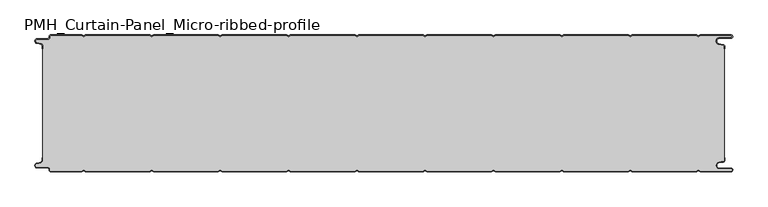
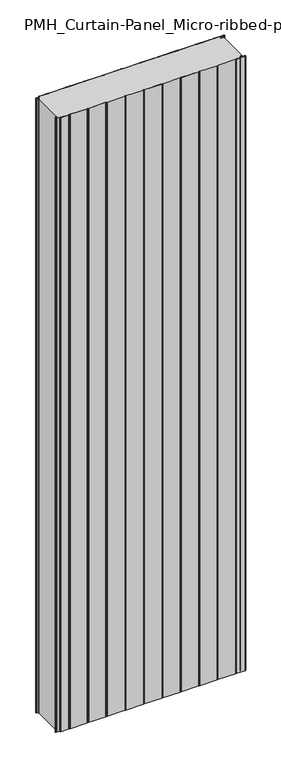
"""IFC4 building model written with IfcOpenShell, lengths in millimetres: plate geometry, PMH_Curtain-Panel_Micro-ribbed-profile : ACH_PMH_Stone-wool-Panel_200M."""

from ifc_helpers import new_model, si_unit, point, frame_2d, origin, origin_with_axes, place, context, project, spatial, polyline, circle_curve, trimmed, segment, composite_curve, outline, extrude, source, transform, mapped, element, save


def pmh_curtain_panel_micro_ribbed_profile_f908c7d4(model_context):
    return source(origin(), model_context, "Body", "SweptSolid", [
        extrude(outline(composite_curve([segment(trimmed(circle_curve(frame_2d((-502.0, -15.878557)), 2.0), [point((-500.0, -15.878557))], [point((-501.5500978, -13.9298169))], True, "CARTESIAN"), True, "CONTINUOUS"), segment(polyline([(-501.5500978, -13.9298169), (-507.7098239, -12.507732)]), True, "CONTINUOUS"), segment(trimmed(circle_curve(frame_2d((-506.9, -9.0)), 3.6), [point((-507.7098239, -12.507732))], [point((-506.9, -5.4))], False, "CARTESIAN"), True, "CONTINUOUS"), segment(polyline([(-506.9, -5.4), (-491.4, -5.4)]), True, "CONTINUOUS"), segment(trimmed(circle_curve(frame_2d((-491.4, -3.4)), 2.0), [point((-491.4, -5.4))], [point((-489.4, -3.4))], True, "CARTESIAN"), True, "CONTINUOUS"), segment(polyline([(-489.4, -3.4), (-489.4, -2.0)]), True, "CONTINUOUS"), segment(trimmed(circle_curve(frame_2d((-487.4, -2.0)), 2.0), [point((-489.4, -2.0))], [point((-487.4, 0.0))], False, "CARTESIAN"), True, "CONTINUOUS"), segment(polyline([(-487.4, 0.0), (-442.0999995, 0.0), (-439.4, -1.5588455), (-436.7000005, 0.0), (-342.0999995, 0.0), (-339.4, -1.5588455), (-336.7000005, 0.0), (-242.0999995, 0.0), (-239.4, -1.5588455), (-236.7000005, 0.0), (-142.0999995, 0.0), (-139.4, -1.5588455), (-136.7000005, 0.0), (-42.0999995, 0.0), (-39.4, -1.5588455), (-36.7000005, 0.0), (57.9000005, 0.0), (60.6, -1.5588455), (63.2999995, 0.0), (157.9000005, 0.0), (160.6, -1.5588455), (163.2999995, 0.0), (257.9000005, 0.0), (260.6, -1.5588455), (263.2999995, 0.0), (357.9000005, 0.0), (360.6, -1.5588455), (363.2999995, 0.0), (457.9000005, 0.0), (460.6, -1.5588455), (463.2999995, 0.0), (508.1, 0.0)]), True, "CONTINUOUS"), segment(trimmed(circle_curve(frame_2d((508.1, -2.5)), 2.5), [point((508.1, 0.0))], [point((508.1, -5.0))], False, "CARTESIAN"), True, "CONTINUOUS"), segment(polyline([(508.1, -5.0), (491.1, -5.0)]), True, "CONTINUOUS"), segment(trimmed(circle_curve(frame_2d((491.1, -9.0)), 4.0), [point((491.1, -5.0))], [point((490.405407, -12.939231))], True, "CARTESIAN"), True, "CONTINUOUS"), segment(polyline([(490.405407, -12.939231), (496.8514855, -14.0758491)]), True, "CONTINUOUS"), segment(trimmed(circle_curve(frame_2d((496.4, -16.6363492)), 2.6), [point((496.8514855, -14.0758491))], [point((499.0, -16.6363492))], False, "CARTESIAN"), True, "CONTINUOUS"), segment(polyline([(499.0, -16.6363492), (499.0, -20.0), (498.2, -20.0), (498.2, -16.6363492)]), True, "CONTINUOUS"), segment(trimmed(circle_curve(frame_2d((496.4, -16.6363492)), 1.8), [point((498.2, -16.6363492))], [point((496.7125669, -14.8636953))], True, "CARTESIAN"), True, "CONTINUOUS"), segment(polyline([(496.7125669, -14.8636953), (490.2664884, -13.7270772)]), True, "CONTINUOUS"), segment(trimmed(circle_curve(frame_2d((491.1, -9.0)), 4.8), [point((490.2664884, -13.7270772))], [point((491.1, -4.2))], False, "CARTESIAN"), True, "CONTINUOUS"), segment(polyline([(491.1, -4.2), (508.1, -4.2)]), True, "CONTINUOUS"), segment(trimmed(circle_curve(frame_2d((508.1, -2.5)), 1.7), [point((508.1, -4.2))], [point((508.1, -0.8))], True, "CARTESIAN"), True, "CONTINUOUS"), segment(polyline([(508.1, -0.8), (463.5143588, -0.8), (460.6, -2.482606), (457.6856412, -0.8), (363.5143588, -0.8), (360.6, -2.482606), (357.6856412, -0.8), (263.5143588, -0.8), (260.6, -2.482606), (257.6856412, -0.8), (163.5143588, -0.8), (160.6, -2.482606), (157.6856412, -0.8), (63.5143588, -0.8), (60.6, -2.482606), (57.6856412, -0.8), (-36.4856412, -0.8), (-39.4, -2.482606), (-42.3143588, -0.8), (-136.4856412, -0.8), (-139.4, -2.482606), (-142.3143588, -0.8), (-236.4856412, -0.8), (-239.4, -2.482606), (-242.3143588, -0.8), (-336.4856412, -0.8), (-339.4, -2.482606), (-342.3143588, -0.8), (-436.4856412, -0.8), (-439.4, -2.482606), (-442.3143588, -0.8), (-487.4, -0.8)]), True, "CONTINUOUS"), segment(trimmed(circle_curve(frame_2d((-487.4, -2.0)), 1.2), [point((-487.4, -0.8))], [point((-488.6, -2.0))], True, "CARTESIAN"), True, "CONTINUOUS"), segment(polyline([(-488.6, -2.0), (-488.6, -3.4)]), True, "CONTINUOUS"), segment(trimmed(circle_curve(frame_2d((-491.4, -3.4)), 2.8), [point((-488.6, -3.4))], [point((-491.4, -6.2))], False, "CARTESIAN"), True, "CONTINUOUS"), segment(polyline([(-491.4, -6.2), (-506.9, -6.2)]), True, "CONTINUOUS"), segment(trimmed(circle_curve(frame_2d((-506.9, -9.0)), 2.8), [point((-506.9, -6.2))], [point((-507.529863, -11.7282362))], True, "CARTESIAN"), True, "CONTINUOUS"), segment(polyline([(-507.529863, -11.7282362), (-501.370137, -13.150321)]), True, "CONTINUOUS"), segment(trimmed(circle_curve(frame_2d((-502.0, -15.878557)), 2.8), [point((-501.370137, -13.150321))], [point((-499.2, -15.878557))], False, "CARTESIAN"), True, "CONTINUOUS"), segment(polyline([(-499.2, -15.878557), (-499.2, -20.0), (-500.0, -20.0), (-500.0, -15.878557)]), True, "CONTINUOUS")], self_intersect=False)), origin_with_axes(), (0.0, 0.0, 1.0), 3500.0),
        extrude(outline(composite_curve([segment(polyline([(-499.2, -184.1214426), (-499.2, -15.8785573)]), True, "CONTINUOUS"), segment(trimmed(circle_curve(frame_2d((-502.0, -15.8785573)), 2.8), [point((-499.2, -15.8785573))], [point((-501.370137, -13.1503212))], True, "CARTESIAN"), True, "CONTINUOUS"), segment(polyline([(-501.370137, -13.1503212), (-507.5298631, -11.7282362)]), True, "CONTINUOUS"), segment(trimmed(circle_curve(frame_2d((-506.9, -9.0)), 2.8), [point((-507.5298631, -11.7282362))], [point((-506.9, -6.2))], False, "CARTESIAN"), True, "CONTINUOUS"), segment(polyline([(-506.9, -6.2), (-491.4000001, -6.2)]), True, "CONTINUOUS"), segment(trimmed(circle_curve(frame_2d((-491.4000001, -3.4)), 2.8), [point((-491.4000001, -6.2))], [point((-488.6000001, -3.4))], True, "CARTESIAN"), True, "CONTINUOUS"), segment(polyline([(-488.6000001, -3.4), (-488.6000001, -2.0)]), True, "CONTINUOUS"), segment(trimmed(circle_curve(frame_2d((-487.4000001, -2.0)), 1.2), [point((-488.6000001, -2.0))], [point((-487.4000001, -0.8))], False, "CARTESIAN"), True, "CONTINUOUS"), segment(polyline([(-487.4000001, -0.8), (-442.3143589, -0.8), (-439.4000001, -2.482606), (-436.4856412, -0.8), (-342.3143589, -0.8), (-339.4000001, -2.482606), (-336.4856412, -0.8), (-242.3143589, -0.8), (-239.4000001, -2.482606), (-236.4856412, -0.8), (-142.3143589, -0.8), (-139.4000001, -2.482606), (-136.4856412, -0.8), (-42.3143589, -0.8), (-39.4000001, -2.482606), (-36.4856412, -0.8), (57.6856411, -0.8), (60.5999999, -2.482606), (63.5143588, -0.8), (157.6856411, -0.8), (160.5999999, -2.482606), (163.5143588, -0.8), (257.6856411, -0.8), (260.5999999, -2.482606), (263.5143588, -0.8), (357.6856411, -0.8), (360.5999999, -2.482606), (363.5143588, -0.8), (457.6856411, -0.8), (460.5999999, -2.482606), (463.5143588, -0.8), (508.0999999, -0.8)]), True, "CONTINUOUS"), segment(trimmed(circle_curve(frame_2d((508.0999999, -2.5)), 1.7), [point((508.0999999, -0.8))], [point((508.0999999, -4.2))], False, "CARTESIAN"), True, "CONTINUOUS"), segment(polyline([(508.0999999, -4.2), (491.0999999, -4.2)]), True, "CONTINUOUS"), segment(trimmed(circle_curve(frame_2d((491.0999999, -9.0)), 4.8), [point((491.0999999, -4.2))], [point((490.2664883, -13.7270771))], True, "CARTESIAN"), True, "CONTINUOUS"), segment(polyline([(490.2664883, -13.7270771), (496.7125668, -14.8636953)]), True, "CONTINUOUS"), segment(trimmed(circle_curve(frame_2d((496.3999999, -16.6363492)), 1.8), [point((496.7125668, -14.8636953))], [point((498.1999999, -16.6363492))], False, "CARTESIAN"), True, "CONTINUOUS"), segment(polyline([(498.1999999, -16.6363492), (498.1999999, -183.3636508)]), True, "CONTINUOUS"), segment(trimmed(circle_curve(frame_2d((496.3999999, -183.3636508)), 1.8), [point((498.1999999, -183.3636508))], [point((496.7125668, -185.1363047))], False, "CARTESIAN"), True, "CONTINUOUS"), segment(polyline([(496.7125668, -185.1363047), (490.2664883, -186.2729229)]), True, "CONTINUOUS"), segment(trimmed(circle_curve(frame_2d((491.0999999, -191.0)), 4.8), [point((490.2664883, -186.2729229))], [point((491.0999999, -195.8))], True, "CARTESIAN"), True, "CONTINUOUS"), segment(polyline([(491.0999999, -195.8), (508.0999999, -195.8)]), True, "CONTINUOUS"), segment(trimmed(circle_curve(frame_2d((508.0999999, -197.5)), 1.7), [point((508.0999999, -195.8))], [point((508.0999999, -199.2))], False, "CARTESIAN"), True, "CONTINUOUS"), segment(polyline([(508.0999999, -199.2), (463.5143588, -199.2), (460.5999999, -197.517394), (457.6856411, -199.2), (363.5143588, -199.2), (360.5999999, -197.517394), (357.6856411, -199.2), (263.5143588, -199.2), (260.5999999, -197.517394), (257.6856411, -199.2), (163.5143588, -199.2), (160.5999999, -197.517394), (157.6856411, -199.2), (63.5143588, -199.2), (60.5999999, -197.517394), (57.6856411, -199.2), (-36.4856412, -199.2), (-39.4000001, -197.517394), (-42.3143589, -199.2), (-136.4856412, -199.2), (-139.4000001, -197.517394), (-142.3143589, -199.2), (-236.4856412, -199.2), (-239.4000001, -197.517394), (-242.3143589, -199.2), (-336.4856412, -199.2), (-339.4000001, -197.517394), (-342.3143589, -199.2), (-436.4856412, -199.2), (-439.4000001, -197.517394), (-442.3143589, -199.2), (-487.4000001, -199.2)]), True, "CONTINUOUS"), segment(trimmed(circle_curve(frame_2d((-487.4000001, -198.0)), 1.2), [point((-487.4000001, -199.2))], [point((-488.6000001, -198.0))], False, "CARTESIAN"), True, "CONTINUOUS"), segment(polyline([(-488.6000001, -198.0), (-488.6000001, -196.6)]), True, "CONTINUOUS"), segment(trimmed(circle_curve(frame_2d((-491.4000001, -196.6)), 2.8), [point((-488.6000001, -196.6))], [point((-491.4000001, -193.8))], True, "CARTESIAN"), True, "CONTINUOUS"), segment(polyline([(-491.4000001, -193.8), (-506.9, -193.8)]), True, "CONTINUOUS"), segment(trimmed(circle_curve(frame_2d((-506.9, -191.0)), 2.8), [point((-506.9, -193.8))], [point((-507.5298631, -188.2717638))], False, "CARTESIAN"), True, "CONTINUOUS"), segment(polyline([(-507.5298631, -188.2717638), (-501.370137, -186.8496788)]), True, "CONTINUOUS"), segment(trimmed(circle_curve(frame_2d((-502.0, -184.1214426)), 2.8), [point((-501.370137, -186.8496788))], [point((-499.2, -184.1214426))], True, "CARTESIAN"), True, "CONTINUOUS")], self_intersect=False)), origin_with_axes(), (0.0, 0.0, 1.0), 3500.0),
        extrude(outline(composite_curve([segment(polyline([(-500.0, -184.121443), (-500.0, -180.0), (-499.2, -180.0), (-499.2, -184.121443)]), True, "CONTINUOUS"), segment(trimmed(circle_curve(frame_2d((-502.0, -184.121443)), 2.8), [point((-499.2, -184.121443))], [point((-501.370137, -186.8496792))], False, "CARTESIAN"), True, "CONTINUOUS"), segment(polyline([(-501.370137, -186.8496792), (-507.529863, -188.271764)]), True, "CONTINUOUS"), segment(trimmed(circle_curve(frame_2d((-506.9, -191.0)), 2.8), [point((-507.529863, -188.271764))], [point((-506.9, -193.8))], True, "CARTESIAN"), True, "CONTINUOUS"), segment(polyline([(-506.9, -193.8), (-491.4, -193.8)]), True, "CONTINUOUS"), segment(trimmed(circle_curve(frame_2d((-491.4, -196.6)), 2.8), [point((-491.4, -193.8))], [point((-488.6, -196.6))], False, "CARTESIAN"), True, "CONTINUOUS"), segment(polyline([(-488.6, -196.6), (-488.6, -198.0)]), True, "CONTINUOUS"), segment(trimmed(circle_curve(frame_2d((-487.4, -198.0)), 1.2), [point((-488.6, -198.0))], [point((-487.4, -199.2))], True, "CARTESIAN"), True, "CONTINUOUS"), segment(polyline([(-487.4, -199.2), (-442.3143588, -199.2), (-439.4, -197.517394), (-436.4856412, -199.2), (-342.3143588, -199.2), (-339.4, -197.517394), (-336.4856412, -199.2), (-242.3143588, -199.2), (-239.4, -197.517394), (-236.4856412, -199.2), (-142.3143588, -199.2), (-139.4, -197.517394), (-136.4856412, -199.2), (-42.3143588, -199.2), (-39.4, -197.517394), (-36.4856412, -199.2), (57.6856412, -199.2), (60.6, -197.517394), (63.5143588, -199.2), (157.6856412, -199.2), (160.6, -197.517394), (163.5143588, -199.2), (257.6856412, -199.2), (260.6, -197.517394), (263.5143588, -199.2), (357.6856412, -199.2), (360.6, -197.517394), (363.5143588, -199.2), (457.6856412, -199.2), (460.6, -197.517394), (463.5143588, -199.2), (508.1, -199.2)]), True, "CONTINUOUS"), segment(trimmed(circle_curve(frame_2d((508.1, -197.5)), 1.7), [point((508.1, -199.2))], [point((508.1, -195.8))], True, "CARTESIAN"), True, "CONTINUOUS"), segment(polyline([(508.1, -195.8), (491.1, -195.8)]), True, "CONTINUOUS"), segment(trimmed(circle_curve(frame_2d((491.1, -191.0)), 4.8), [point((491.1, -195.8))], [point((490.2664884, -186.2729229))], False, "CARTESIAN"), True, "CONTINUOUS"), segment(polyline([(490.2664884, -186.2729229), (496.7125669, -185.1363047)]), True, "CONTINUOUS"), segment(trimmed(circle_curve(frame_2d((496.4, -183.3636508)), 1.8), [point((496.7125669, -185.1363047))], [point((498.2, -183.3636508))], True, "CARTESIAN"), True, "CONTINUOUS"), segment(polyline([(498.2, -183.3636508), (498.2, -180.0), (499.0, -180.0), (499.0, -183.3636508)]), True, "CONTINUOUS"), segment(trimmed(circle_curve(frame_2d((496.4, -183.3636508)), 2.6), [point((499.0, -183.3636508))], [point((496.8514855, -185.9241509))], False, "CARTESIAN"), True, "CONTINUOUS"), segment(polyline([(496.8514855, -185.9241509), (490.405407, -187.060769)]), True, "CONTINUOUS"), segment(trimmed(circle_curve(frame_2d((491.1, -191.0)), 4.0), [point((490.405407, -187.060769))], [point((491.1, -195.0))], True, "CARTESIAN"), True, "CONTINUOUS"), segment(polyline([(491.1, -195.0), (508.1, -195.0)]), True, "CONTINUOUS"), segment(trimmed(circle_curve(frame_2d((508.1, -197.5)), 2.5), [point((508.1, -195.0))], [point((508.1, -200.0))], False, "CARTESIAN"), True, "CONTINUOUS"), segment(polyline([(508.1, -200.0), (463.2999995, -200.0), (460.6, -198.4411545), (457.9000005, -200.0), (363.2999995, -200.0), (360.6, -198.4411545), (357.9000005, -200.0), (263.2999995, -200.0), (260.6, -198.4411545), (257.9000005, -200.0), (163.2999995, -200.0), (160.6, -198.4411545), (157.9000005, -200.0), (63.2999995, -200.0), (60.6, -198.4411545), (57.9000005, -200.0), (-36.7000005, -200.0), (-39.4, -198.4411545), (-42.0999995, -200.0), (-136.7000005, -200.0), (-139.4, -198.4411545), (-142.0999995, -200.0), (-236.7000005, -200.0), (-239.4, -198.4411545), (-242.0999995, -200.0), (-336.7000005, -200.0), (-339.4, -198.4411545), (-342.0999995, -200.0), (-436.7000005, -200.0), (-439.4, -198.4411545), (-442.0999995, -200.0), (-487.4, -200.0)]), True, "CONTINUOUS"), segment(trimmed(circle_curve(frame_2d((-487.4, -198.0)), 2.0), [point((-487.4, -200.0))], [point((-489.4, -198.0))], False, "CARTESIAN"), True, "CONTINUOUS"), segment(polyline([(-489.4, -198.0), (-489.4, -196.6)]), True, "CONTINUOUS"), segment(trimmed(circle_curve(frame_2d((-491.4, -196.6)), 2.0), [point((-489.4, -196.6))], [point((-491.4, -194.6))], True, "CARTESIAN"), True, "CONTINUOUS"), segment(polyline([(-491.4, -194.6), (-506.9, -194.6)]), True, "CONTINUOUS"), segment(trimmed(circle_curve(frame_2d((-506.9, -191.0)), 3.6), [point((-506.9, -194.6))], [point((-507.7098239, -187.4922678))], False, "CARTESIAN"), True, "CONTINUOUS"), segment(polyline([(-507.7098239, -187.4922678), (-501.5500979, -186.070183)]), True, "CONTINUOUS"), segment(trimmed(circle_curve(frame_2d((-502.0, -184.121443)), 2.0), [point((-501.5500979, -186.070183))], [point((-500.0, -184.121443))], True, "CARTESIAN"), True, "CONTINUOUS")], self_intersect=False)), origin_with_axes(), (0.0, 0.0, 1.0), 3500.0),
    ])


if __name__ == "__main__":
    model = new_model("IFC4")
    model_context = context("Model", 3, world=origin())
    ifc_project = project(units=[si_unit("LENGTHUNIT", "METRE", prefix="MILLI")], contexts=[model_context])
    site = spatial("IfcSite", under=ifc_project)
    building = spatial("IfcBuilding", under=site)
    placement = place(None, origin())
    pmh_curtain_panel_micro_ribbed_profile_shape = pmh_curtain_panel_micro_ribbed_profile_f908c7d4(model_context)
    element("IfcPlate", 1, ObjectType="PMH_Curtain-Panel_Micro-ribbed-profile : ACH_PMH_Stone-wool-Panel_200M", at=placement, inside=building, context=model_context, shape_type="MappedRepresentation", body=[
        mapped(pmh_curtain_panel_micro_ribbed_profile_shape, transform((0.0, 0.0, 0.0), x_axis=(1.0, 0.0, 0.0), y_axis=(0.0, 1.0, 0.0), z_axis=(0.0, 0.0, 1.0))),
    ])
    save(model, "model.ifc")
